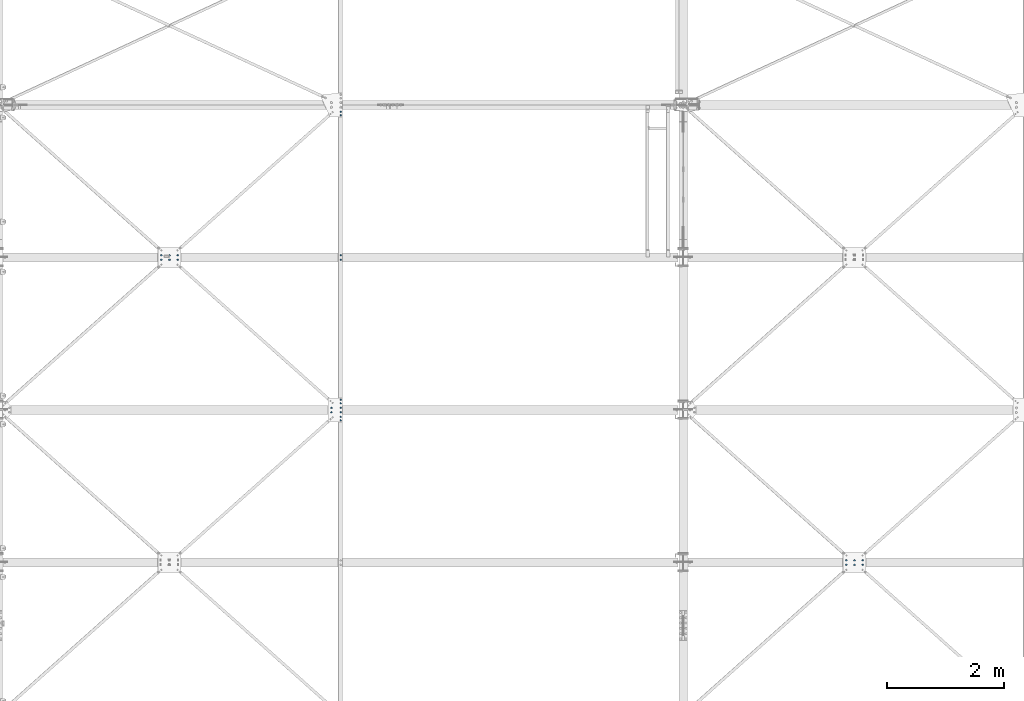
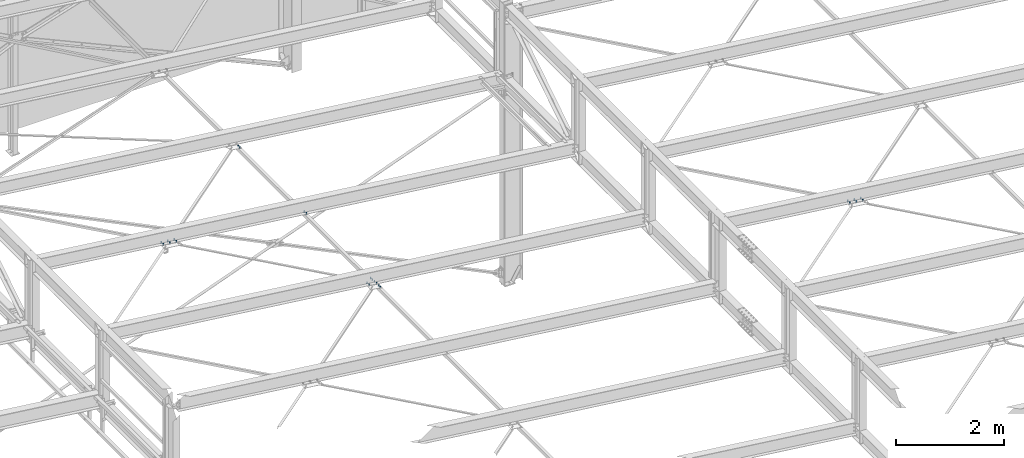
# One storey, part 291 of 3134: 7 mechanical fasteners, 6 elements without a shape of their own.
"""IFC2X3 building model written with IfcOpenShell, lengths in millimetres."""

from ifc_helpers import new_model, si_unit, frame, origin_with_axes, place, context, subcontext, project, spatial, faceted_brep, source, transform, mapped, material, type_object, element, aggregate, save


model = new_model("IFC2X3")

# Units and contexts
model_context = context("Model", 3, precision=1e-05, world=origin_with_axes())
body_context = subcontext(model_context, "Body", "Model", "MODEL_VIEW")
ifc_project = project(units=[si_unit("LENGTHUNIT", "METRE", prefix="MILLI"), si_unit("AREAUNIT", "SQUARE_METRE"), si_unit("VOLUMEUNIT", "CUBIC_METRE"), si_unit("MASSUNIT", "GRAM", prefix="KILO"), si_unit("TIMEUNIT", "SECOND"), si_unit("PLANEANGLEUNIT", "RADIAN"), si_unit("SOLIDANGLEUNIT", "STERADIAN"), si_unit("THERMODYNAMICTEMPERATUREUNIT", "DEGREE_CELSIUS"), si_unit("LUMINOUSINTENSITYUNIT", "LUMEN")], contexts=[model_context])

# Site, building, storey
site_placement = place(None, origin_with_axes())
site = spatial("IfcSite", under=ifc_project, at=site_placement, CompositionType="ELEMENT")
building_placement = place(site_placement, origin_with_axes())
building = spatial("IfcBuilding", under=site, at=building_placement, Name="Undefined", CompositionType="ELEMENT")
storey_placement = place(building_placement, origin_with_axes())
storey = spatial("IfcBuildingStorey", under=building, at=storey_placement, Name="Undefined", CompositionType="ELEMENT", Elevation=0.0)

# Assembly, mechanical fastener
assembly_1_placement = place(storey_placement, origin_with_axes())
assembly_1 = element("IfcElementAssembly", 1, at=assembly_1_placement, inside=storey, Name="300", AssemblyPlace="NOTDEFINED", PredefinedType="RIGID_FRAME")
ifc_material = material(Name="8.8")
mechanical_fastener_type = type_object("IfcMechanicalFastenerType", Name="Bolt assembly")
shared_shape_1 = source(origin_with_axes(), body_context, "Body", "Brep", [
    faceted_brep([(13.856406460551, -19.199990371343, 0.0), (6.92820323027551, -19.199990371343, 12.0), (-6.92820323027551, -19.199990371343, 12.0), (-13.856406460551, -19.199990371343, 1.69692038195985e-15), (-6.92820323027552, -19.199990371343, -12.0), (6.9282032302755, -19.199990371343, -12.0), (6.9282032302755, -9.19999037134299, -12.0), (-6.92820323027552, -9.19999037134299, -12.0), (-13.856406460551, -9.19999037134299, 1.69692038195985e-15), (-6.92820323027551, -9.19999037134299, 12.0), (6.92820323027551, -9.19999037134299, 12.0), (13.856406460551, -9.19999037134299, 0.0), (8.0, -9.19999037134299, 0.0), (6.92820323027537, -9.19999037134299, 4.00000000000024), (3.99999999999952, -9.19999037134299, 6.92820323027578), (-8.29068785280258e-13, -9.19999037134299, 8.0), (-4.00000000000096, -9.19999037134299, 6.92820323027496), (-6.9282032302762, -9.19999037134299, 3.99999999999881), (-8.0, -9.19999037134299, -1.65813757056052e-12), (-6.92820323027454, -9.19999037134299, -4.00000000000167), (-3.99999999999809, -9.19999037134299, -6.92820323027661), (2.47832457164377e-12, -9.19999037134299, -8.0), (4.00000000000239, -9.19999037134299, -6.92820323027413), (6.92820323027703, -9.19999037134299, -3.99999999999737), (6.92820323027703, 25.800009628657, -3.99999999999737), (4.00000000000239, 25.800009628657, -6.92820323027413), (2.47832457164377e-12, 25.800009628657, -8.0), (-3.99999999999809, 25.800009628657, -6.92820323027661), (-6.92820323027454, 25.800009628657, -4.00000000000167), (-8.0, 25.800009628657, -1.65813757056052e-12), (-6.9282032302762, 25.800009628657, 3.99999999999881), (-4.00000000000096, 25.800009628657, 6.92820323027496), (-8.29068785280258e-13, 25.800009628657, 8.0), (3.99999999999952, 25.800009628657, 6.92820323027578), (6.92820323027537, 25.800009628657, 4.00000000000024), (8.0, 25.800009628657, 0.0), (13.856406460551, 8.00000637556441, 0.0), (6.92820323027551, 8.00000637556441, 12.0), (-6.92820323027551, 8.00000637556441, 12.0), (-13.856406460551, 8.00000637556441, 1.69692038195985e-15), (-6.92820323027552, 8.00000637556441, -12.0), (6.9282032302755, 8.00000637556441, -12.0), (6.9282032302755, 21.0000063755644, -12.0), (-6.92820323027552, 21.0000063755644, -12.0), (-13.856406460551, 21.0000063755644, 1.69692038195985e-15), (-6.92820323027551, 21.0000063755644, 12.0), (6.92820323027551, 21.0000063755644, 12.0), (13.856406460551, 21.0000063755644, 0.0)], [[[0, 1, 2, 3, 4, 5]], [[6, 7, 8, 9, 10, 11]], [[0, 11, 10, 1]], [[1, 10, 9, 2]], [[2, 9, 8, 3]], [[3, 8, 7, 4]], [[4, 7, 6, 5]], [[5, 6, 11, 0]], [[12, 13, 14, 15, 16, 17, 18, 19, 20, 21, 22, 23]], [[24, 25, 26, 27, 28, 29, 30, 31, 32, 33, 34, 35]], [[12, 35, 34, 13]], [[13, 34, 33, 14]], [[14, 33, 32, 15]], [[15, 32, 31, 16]], [[16, 31, 30, 17]], [[17, 30, 29, 18]], [[18, 29, 28, 19]], [[19, 28, 27, 20]], [[20, 27, 26, 21]], [[21, 26, 25, 22]], [[22, 25, 24, 23]], [[23, 24, 35, 12]], [[36, 37, 38, 39, 40, 41]], [[42, 43, 44, 45, 46, 47]], [[36, 47, 46, 37]], [[37, 46, 45, 38]], [[38, 45, 44, 39]], [[39, 44, 43, 40]], [[40, 43, 42, 41]], [[41, 42, 47, 36]]]),
    faceted_brep([(9.0, -0.1, 0.0), (7.79422863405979, -0.1, 4.50000000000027), (4.49999999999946, -0.1, 7.79422863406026), (-9.3270238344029e-13, -0.1, 9.0), (-4.50000000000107, -0.1, 7.79422863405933), (-7.79422863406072, -0.1, 4.49999999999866), (-9.0, -0.1, -1.86540476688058e-12), (-7.79422863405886, -0.1, -4.50000000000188), (-4.49999999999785, -0.1, -7.79422863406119), (2.78811514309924e-12, -0.1, -9.0), (4.50000000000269, -0.1, -7.7942286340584), (7.79422863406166, -0.1, -4.49999999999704), (7.79422863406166, 8.00000000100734, -4.49999999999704), (4.50000000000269, 8.00000000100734, -7.7942286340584), (2.78811514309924e-12, 8.00000000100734, -9.0), (-4.49999999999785, 8.00000000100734, -7.79422863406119), (-7.79422863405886, 8.00000000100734, -4.50000000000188), (-9.0, 8.00000000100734, -1.86540476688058e-12), (-7.79422863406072, 8.00000000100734, 4.49999999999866), (-4.50000000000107, 8.00000000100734, 7.79422863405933), (-9.3270238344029e-13, 8.00000000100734, 9.0), (4.49999999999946, 8.00000000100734, 7.79422863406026), (7.79422863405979, 8.00000000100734, 4.50000000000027), (9.0, 8.00000000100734, 0.0), (9.0, -9.09999037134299, 0.0), (7.79422863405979, -9.09999037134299, 4.50000000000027), (4.49999999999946, -9.09999037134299, 7.79422863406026), (-9.3270238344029e-13, -9.09999037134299, 9.0), (-4.50000000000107, -9.09999037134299, 7.79422863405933), (-7.79422863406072, -9.09999037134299, 4.49999999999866), (-9.0, -9.09999037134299, -1.86540476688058e-12), (-7.79422863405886, -9.09999037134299, -4.50000000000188), (-4.49999999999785, -9.09999037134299, -7.79422863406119), (2.78811514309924e-12, -9.09999037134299, -9.0), (4.50000000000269, -9.09999037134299, -7.7942286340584), (7.79422863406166, -9.09999037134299, -4.49999999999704), (7.79422863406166, 0.100000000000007, -4.49999999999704), (4.50000000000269, 0.100000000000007, -7.7942286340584), (2.78811514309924e-12, 0.100000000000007, -9.0), (-4.49999999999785, 0.100000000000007, -7.79422863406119), (-7.79422863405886, 0.100000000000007, -4.50000000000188), (-9.0, 0.100000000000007, -1.86540476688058e-12), (-7.79422863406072, 0.100000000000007, 4.49999999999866), (-4.50000000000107, 0.100000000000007, 7.79422863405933), (-9.3270238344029e-13, 0.100000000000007, 9.0), (4.49999999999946, 0.100000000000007, 7.79422863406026), (7.79422863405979, 0.100000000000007, 4.50000000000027), (9.0, 0.100000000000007, 0.0)], [[[0, 1, 2, 3, 4, 5, 6, 7, 8, 9, 10, 11]], [[12, 13, 14, 15, 16, 17, 18, 19, 20, 21, 22, 23]], [[0, 23, 22, 1]], [[1, 22, 21, 2]], [[2, 21, 20, 3]], [[3, 20, 19, 4]], [[4, 19, 18, 5]], [[5, 18, 17, 6]], [[6, 17, 16, 7]], [[7, 16, 15, 8]], [[8, 15, 14, 9]], [[9, 14, 13, 10]], [[10, 13, 12, 11]], [[11, 12, 23, 0]], [[24, 25, 26, 27, 28, 29, 30, 31, 32, 33, 34, 35]], [[36, 37, 38, 39, 40, 41, 42, 43, 44, 45, 46, 47]], [[24, 47, 46, 25]], [[25, 46, 45, 26]], [[26, 45, 44, 27]], [[27, 44, 43, 28]], [[28, 43, 42, 29]], [[29, 42, 41, 30]], [[30, 41, 40, 31]], [[31, 40, 39, 32]], [[32, 39, 38, 33]], [[33, 38, 37, 34]], [[34, 37, 36, 35]], [[35, 36, 47, 24]]]),
])
mechanical_fastener_1_placement = place(assembly_1_placement, frame((49958.5751064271, 55812.0, 4816.43281405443), z_axis=(-0.992623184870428, 0.0, 0.121240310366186), x_axis=(0.0, 1.0, 0.0)))
mechanical_fastener_1 = element("IfcMechanicalFastener", 2, at=mechanical_fastener_1_placement, type_object=mechanical_fastener_type, material=ifc_material, Name="Bolt assembly", NominalDiameter=16.0, NominalLength=35.0, context=body_context, shape_type="MappedRepresentation", body=[
    mapped(shared_shape_1, transform((0.0, -5.32963895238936e-10, -79.9999999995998))),
    mapped(shared_shape_1, transform((76.0, -5.32963895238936e-10, -79.9999999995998))),
    mapped(shared_shape_1, transform((0.0, 5.3114490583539e-10, 79.9999999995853))),
    mapped(shared_shape_1, transform((76.0, 5.3114490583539e-10, 79.9999999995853))),
])
aggregate(assembly_1, [mechanical_fastener_1])

assembly_2_placement = place(storey_placement, origin_with_axes())
assembly_2 = element("IfcElementAssembly", 3, at=assembly_2_placement, inside=storey, AssemblyPlace="NOTDEFINED", PredefinedType="RIGID_FRAME")
shared_shape_2 = source(origin_with_axes(), body_context, "Body", "Brep", [
    faceted_brep([(13.856406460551, -19.199990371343, 0.0), (6.92820323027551, -19.199990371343, 12.0), (-6.92820323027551, -19.199990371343, 12.0), (-13.856406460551, -19.199990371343, 1.69692038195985e-15), (-6.92820323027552, -19.199990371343, -12.0), (6.9282032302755, -19.199990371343, -12.0), (6.9282032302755, -9.19999037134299, -12.0), (-6.92820323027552, -9.19999037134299, -12.0), (-13.856406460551, -9.19999037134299, 1.69692038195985e-15), (-6.92820323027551, -9.19999037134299, 12.0), (6.92820323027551, -9.19999037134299, 12.0), (13.856406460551, -9.19999037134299, 0.0), (8.0, -9.19999037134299, 0.0), (6.92820323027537, -9.19999037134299, 4.00000000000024), (3.99999999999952, -9.19999037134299, 6.92820323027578), (-8.29068785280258e-13, -9.19999037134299, 8.0), (-4.00000000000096, -9.19999037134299, 6.92820323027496), (-6.9282032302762, -9.19999037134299, 3.99999999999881), (-8.0, -9.19999037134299, -1.65813757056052e-12), (-6.92820323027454, -9.19999037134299, -4.00000000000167), (-3.99999999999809, -9.19999037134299, -6.92820323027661), (2.47832457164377e-12, -9.19999037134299, -8.0), (4.00000000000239, -9.19999037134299, -6.92820323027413), (6.92820323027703, -9.19999037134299, -3.99999999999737), (6.92820323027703, 35.8000002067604, -3.99999999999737), (4.00000000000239, 35.8000002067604, -6.92820323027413), (2.47832457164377e-12, 35.8000002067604, -8.0), (-3.99999999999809, 35.8000002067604, -6.92820323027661), (-6.92820323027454, 35.8000002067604, -4.00000000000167), (-8.0, 35.8000002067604, -1.65813757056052e-12), (-6.9282032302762, 35.8000002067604, 3.99999999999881), (-4.00000000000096, 35.8000002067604, 6.92820323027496), (-8.29068785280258e-13, 35.8000002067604, 8.0), (3.99999999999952, 35.8000002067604, 6.92820323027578), (6.92820323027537, 35.8000002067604, 4.00000000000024), (8.0, 35.8000002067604, 0.0), (13.856406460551, 14.9999995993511, 0.0), (6.92820323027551, 14.9999995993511, 12.0), (-6.92820323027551, 14.9999995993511, 12.0), (-13.856406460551, 14.9999995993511, 1.69692038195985e-15), (-6.92820323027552, 14.9999995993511, -12.0), (6.9282032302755, 14.9999995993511, -12.0), (6.9282032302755, 27.9999995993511, -12.0), (-6.92820323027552, 27.9999995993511, -12.0), (-13.856406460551, 27.9999995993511, 1.69692038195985e-15), (-6.92820323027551, 27.9999995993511, 12.0), (6.92820323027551, 27.9999995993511, 12.0), (13.856406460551, 27.9999995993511, 0.0)], [[[0, 1, 2, 3, 4, 5]], [[6, 7, 8, 9, 10, 11]], [[0, 11, 10, 1]], [[1, 10, 9, 2]], [[2, 9, 8, 3]], [[3, 8, 7, 4]], [[4, 7, 6, 5]], [[5, 6, 11, 0]], [[12, 13, 14, 15, 16, 17, 18, 19, 20, 21, 22, 23]], [[24, 25, 26, 27, 28, 29, 30, 31, 32, 33, 34, 35]], [[12, 35, 34, 13]], [[13, 34, 33, 14]], [[14, 33, 32, 15]], [[15, 32, 31, 16]], [[16, 31, 30, 17]], [[17, 30, 29, 18]], [[18, 29, 28, 19]], [[19, 28, 27, 20]], [[20, 27, 26, 21]], [[21, 26, 25, 22]], [[22, 25, 24, 23]], [[23, 24, 35, 12]], [[36, 37, 38, 39, 40, 41]], [[42, 43, 44, 45, 46, 47]], [[36, 47, 46, 37]], [[37, 46, 45, 38]], [[38, 45, 44, 39]], [[39, 44, 43, 40]], [[40, 43, 42, 41]], [[41, 42, 47, 36]]]),
    faceted_brep([(9.0, -9.09999037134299, 0.0), (7.79422863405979, -9.09999037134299, 4.50000000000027), (4.49999999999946, -9.09999037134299, 7.79422863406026), (-9.3270238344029e-13, -9.09999037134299, 9.0), (-4.50000000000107, -9.09999037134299, 7.79422863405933), (-7.79422863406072, -9.09999037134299, 4.49999999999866), (-9.0, -9.09999037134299, -1.86540476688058e-12), (-7.79422863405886, -9.09999037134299, -4.50000000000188), (-4.49999999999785, -9.09999037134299, -7.79422863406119), (2.78811514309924e-12, -9.09999037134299, -9.0), (4.50000000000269, -9.09999037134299, -7.7942286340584), (7.79422863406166, -9.09999037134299, -4.49999999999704), (7.79422863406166, 0.100000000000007, -4.49999999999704), (4.50000000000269, 0.100000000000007, -7.7942286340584), (2.78811514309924e-12, 0.100000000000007, -9.0), (-4.49999999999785, 0.100000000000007, -7.79422863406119), (-7.79422863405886, 0.100000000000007, -4.50000000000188), (-9.0, 0.100000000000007, -1.86540476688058e-12), (-7.79422863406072, 0.100000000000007, 4.49999999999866), (-4.50000000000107, 0.100000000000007, 7.79422863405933), (-9.3270238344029e-13, 0.100000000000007, 9.0), (4.49999999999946, 0.100000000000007, 7.79422863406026), (7.79422863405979, 0.100000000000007, 4.50000000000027), (9.0, 0.100000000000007, 0.0), (9.0, 7.9, 0.0), (7.79422863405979, 7.9, 4.50000000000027), (4.49999999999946, 7.9, 7.79422863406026), (-9.3270238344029e-13, 7.9, 9.0), (-4.50000000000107, 7.9, 7.79422863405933), (-7.79422863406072, 7.9, 4.49999999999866), (-9.0, 7.9, -1.86540476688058e-12), (-7.79422863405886, 7.9, -4.50000000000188), (-4.49999999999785, 7.9, -7.79422863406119), (2.78811514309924e-12, 7.9, -9.0), (4.50000000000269, 7.9, -7.7942286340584), (7.79422863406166, 7.9, -4.49999999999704), (7.79422863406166, 14.9999995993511, -4.49999999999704), (4.50000000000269, 14.9999995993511, -7.7942286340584), (2.78811514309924e-12, 14.9999995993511, -9.0), (-4.49999999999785, 14.9999995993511, -7.79422863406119), (-7.79422863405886, 14.9999995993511, -4.50000000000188), (-9.0, 14.9999995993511, -1.86540476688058e-12), (-7.79422863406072, 14.9999995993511, 4.49999999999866), (-4.50000000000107, 14.9999995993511, 7.79422863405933), (-9.3270238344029e-13, 14.9999995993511, 9.0), (4.49999999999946, 14.9999995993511, 7.79422863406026), (7.79422863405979, 14.9999995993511, 4.50000000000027), (9.0, 14.9999995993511, 0.0)], [[[0, 1, 2, 3, 4, 5, 6, 7, 8, 9, 10, 11]], [[12, 13, 14, 15, 16, 17, 18, 19, 20, 21, 22, 23]], [[0, 23, 22, 1]], [[1, 22, 21, 2]], [[2, 21, 20, 3]], [[3, 20, 19, 4]], [[4, 19, 18, 5]], [[5, 18, 17, 6]], [[6, 17, 16, 7]], [[7, 16, 15, 8]], [[8, 15, 14, 9]], [[9, 14, 13, 10]], [[10, 13, 12, 11]], [[11, 12, 23, 0]], [[24, 25, 26, 27, 28, 29, 30, 31, 32, 33, 34, 35]], [[36, 37, 38, 39, 40, 41, 42, 43, 44, 45, 46, 47]], [[24, 47, 46, 25]], [[25, 46, 45, 26]], [[26, 45, 44, 27]], [[27, 44, 43, 28]], [[28, 43, 42, 29]], [[29, 42, 41, 30]], [[30, 41, 40, 31]], [[31, 40, 39, 32]], [[32, 39, 38, 33]], [[33, 38, 37, 34]], [[34, 37, 36, 35]], [[35, 36, 47, 24]]]),
])
mechanical_fastener_2_placement = place(assembly_2_placement, frame((50037.9849612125, 58412.0, 4806.73358922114), z_axis=(-0.992623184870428, 0.0, 0.121240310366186), x_axis=(0.0, 1.0, 0.0)))
mechanical_fastener_2 = element("IfcMechanicalFastener", 4, at=mechanical_fastener_2_placement, type_object=mechanical_fastener_type, material=ifc_material, Name="Bolt assembly", NominalDiameter=16.0, NominalLength=45.0, context=body_context, shape_type="MappedRepresentation", body=[
    mapped(shared_shape_2, transform((0.0, 0.0, 0.0))),
    mapped(shared_shape_2, transform((76.0, 0.0, 0.0))),
])
aggregate(assembly_2, [mechanical_fastener_2])

# Assembly, mechanical fasteners
assembly_3_placement = place(storey_placement, origin_with_axes())
assembly_3 = element("IfcElementAssembly", 5, at=assembly_3_placement, inside=storey, Name="PL8", AssemblyPlace="NOTDEFINED", PredefinedType="RIGID_FRAME")
shared_shape_3 = source(origin_with_axes(), body_context, "Body", "Brep", [
    faceted_brep([(13.856406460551, -10.0, 0.0), (6.92820323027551, -10.0, 12.0), (-6.92820323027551, -10.0, 12.0), (-13.856406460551, -10.0, 1.69692038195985e-15), (-6.92820323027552, -10.0, -12.0), (6.9282032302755, -10.0, -12.0), (6.9282032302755, 0.0, -12.0), (-6.92820323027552, 0.0, -12.0), (-13.856406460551, 0.0, 1.69692038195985e-15), (-6.92820323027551, 0.0, 12.0), (6.92820323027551, 0.0, 12.0), (13.856406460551, 0.0, 0.0), (8.0, 0.0, 0.0), (6.92820323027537, 0.0, 4.00000000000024), (3.99999999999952, 0.0, 6.92820323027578), (-8.29068785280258e-13, 0.0, 8.0), (-4.00000000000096, 0.0, 6.92820323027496), (-6.9282032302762, 0.0, 3.99999999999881), (-8.0, 0.0, -1.65813757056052e-12), (-6.92820323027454, 0.0, -4.00000000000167), (-3.99999999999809, 0.0, -6.92820323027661), (2.47832457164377e-12, 0.0, -8.0), (4.00000000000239, 0.0, -6.92820323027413), (6.92820323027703, 0.0, -3.99999999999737), (6.92820323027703, 35.0000000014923, -3.99999999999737), (4.00000000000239, 35.0000000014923, -6.92820323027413), (2.47832457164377e-12, 35.0000000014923, -8.0), (-3.99999999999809, 35.0000000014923, -6.92820323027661), (-6.92820323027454, 35.0000000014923, -4.00000000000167), (-8.0, 35.0000000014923, -1.65813757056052e-12), (-6.9282032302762, 35.0000000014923, 3.99999999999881), (-4.00000000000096, 35.0000000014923, 6.92820323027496), (-8.29068785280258e-13, 35.0000000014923, 8.0), (3.99999999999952, 35.0000000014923, 6.92820323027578), (6.92820323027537, 35.0000000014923, 4.00000000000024), (8.0, 35.0000000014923, 0.0), (13.856406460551, 14.9999995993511, 0.0), (6.92820323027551, 14.9999995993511, 12.0), (-6.92820323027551, 14.9999995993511, 12.0), (-13.856406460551, 14.9999995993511, 1.69692038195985e-15), (-6.92820323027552, 14.9999995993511, -12.0), (6.9282032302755, 14.9999995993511, -12.0), (6.9282032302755, 27.9999995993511, -12.0), (-6.92820323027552, 27.9999995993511, -12.0), (-13.856406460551, 27.9999995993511, 1.69692038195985e-15), (-6.92820323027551, 27.9999995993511, 12.0), (6.92820323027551, 27.9999995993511, 12.0), (13.856406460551, 27.9999995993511, 0.0)], [[[0, 1, 2, 3, 4, 5]], [[6, 7, 8, 9, 10, 11]], [[0, 11, 10, 1]], [[1, 10, 9, 2]], [[2, 9, 8, 3]], [[3, 8, 7, 4]], [[4, 7, 6, 5]], [[5, 6, 11, 0]], [[12, 13, 14, 15, 16, 17, 18, 19, 20, 21, 22, 23]], [[24, 25, 26, 27, 28, 29, 30, 31, 32, 33, 34, 35]], [[12, 35, 34, 13]], [[13, 34, 33, 14]], [[14, 33, 32, 15]], [[15, 32, 31, 16]], [[16, 31, 30, 17]], [[17, 30, 29, 18]], [[18, 29, 28, 19]], [[19, 28, 27, 20]], [[20, 27, 26, 21]], [[21, 26, 25, 22]], [[22, 25, 24, 23]], [[23, 24, 35, 12]], [[36, 37, 38, 39, 40, 41]], [[42, 43, 44, 45, 46, 47]], [[36, 47, 46, 37]], [[37, 46, 45, 38]], [[38, 45, 44, 39]], [[39, 44, 43, 40]], [[40, 43, 42, 41]], [[41, 42, 47, 36]]]),
    faceted_brep([(9.0, 7.9, 0.0), (7.79422863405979, 7.9, 4.50000000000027), (4.49999999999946, 7.9, 7.79422863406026), (-9.3270238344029e-13, 7.9, 9.0), (-4.50000000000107, 7.9, 7.79422863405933), (-7.79422863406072, 7.9, 4.49999999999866), (-9.0, 7.9, -1.86540476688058e-12), (-7.79422863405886, 7.9, -4.50000000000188), (-4.49999999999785, 7.9, -7.79422863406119), (2.78811514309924e-12, 7.9, -9.0), (4.50000000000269, 7.9, -7.7942286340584), (7.79422863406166, 7.9, -4.49999999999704), (7.79422863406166, 14.9999995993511, -4.49999999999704), (4.50000000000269, 14.9999995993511, -7.7942286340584), (2.78811514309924e-12, 14.9999995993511, -9.0), (-4.49999999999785, 14.9999995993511, -7.79422863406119), (-7.79422863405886, 14.9999995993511, -4.50000000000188), (-9.0, 14.9999995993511, -1.86540476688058e-12), (-7.79422863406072, 14.9999995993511, 4.49999999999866), (-4.50000000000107, 14.9999995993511, 7.79422863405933), (-9.3270238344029e-13, 14.9999995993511, 9.0), (4.49999999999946, 14.9999995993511, 7.79422863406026), (7.79422863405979, 14.9999995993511, 4.50000000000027), (9.0, 14.9999995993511, 0.0), (9.0, 0.100000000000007, 0.0), (7.79422863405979, 0.100000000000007, 4.50000000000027), (4.49999999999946, 0.100000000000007, 7.79422863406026), (-9.3270238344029e-13, 0.100000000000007, 9.0), (-4.50000000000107, 0.100000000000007, 7.79422863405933), (-7.79422863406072, 0.100000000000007, 4.49999999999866), (-9.0, 0.100000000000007, -1.86540476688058e-12), (-7.79422863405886, 0.100000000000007, -4.50000000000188), (-4.49999999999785, 0.100000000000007, -7.79422863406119), (2.78811514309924e-12, 0.100000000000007, -9.0), (4.50000000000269, 0.100000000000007, -7.7942286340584), (7.79422863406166, 0.100000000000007, -4.49999999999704), (7.79422863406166, 8.1, -4.49999999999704), (4.50000000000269, 8.1, -7.7942286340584), (2.78811514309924e-12, 8.1, -9.0), (-4.49999999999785, 8.1, -7.79422863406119), (-7.79422863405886, 8.1, -4.50000000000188), (-9.0, 8.1, -1.86540476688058e-12), (-7.79422863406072, 8.1, 4.49999999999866), (-4.50000000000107, 8.1, 7.79422863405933), (-9.3270238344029e-13, 8.1, 9.0), (4.49999999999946, 8.1, 7.79422863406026), (7.79422863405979, 8.1, 4.50000000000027), (9.0, 8.1, 0.0)], [[[0, 1, 2, 3, 4, 5, 6, 7, 8, 9, 10, 11]], [[12, 13, 14, 15, 16, 17, 18, 19, 20, 21, 22, 23]], [[0, 23, 22, 1]], [[1, 22, 21, 2]], [[2, 21, 20, 3]], [[3, 20, 19, 4]], [[4, 19, 18, 5]], [[5, 18, 17, 6]], [[6, 17, 16, 7]], [[7, 16, 15, 8]], [[8, 15, 14, 9]], [[9, 14, 13, 10]], [[10, 13, 12, 11]], [[11, 12, 23, 0]], [[24, 25, 26, 27, 28, 29, 30, 31, 32, 33, 34, 35]], [[36, 37, 38, 39, 40, 41, 42, 43, 44, 45, 46, 47]], [[24, 47, 46, 25]], [[25, 46, 45, 26]], [[26, 45, 44, 27]], [[27, 44, 43, 28]], [[28, 43, 42, 29]], [[29, 42, 41, 30]], [[30, 41, 40, 31]], [[31, 40, 39, 32]], [[32, 39, 38, 33]], [[33, 38, 37, 34]], [[34, 37, 36, 35]], [[35, 36, 47, 24]]]),
])
mechanical_fastener_3_placement = place(assembly_3_placement, frame((50037.9849612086, 56025.0, 4806.73358922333), z_axis=(0.992623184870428, 0.0, -0.121240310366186), x_axis=(0.0, -1.0, 0.0)))
mechanical_fastener_3 = element("IfcMechanicalFastener", 6, at=mechanical_fastener_3_placement, type_object=mechanical_fastener_type, material=ifc_material, Name="Bolt assembly", NominalDiameter=16.0, NominalLength=35.0, context=body_context, shape_type="MappedRepresentation", body=[
    mapped(shared_shape_3, transform((0.0, 0.0, 0.0))),
    mapped(shared_shape_3, transform((59.9999999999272, 0.0, 5.40239852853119e-10))),
])
mechanical_fastener_4_placement = place(assembly_3_placement, frame((50037.9849612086, 55735.0, 4806.73358922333), z_axis=(0.992623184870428, 0.0, -0.121240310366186), x_axis=(0.0, -1.0, 0.0)))
mechanical_fastener_4 = element("IfcMechanicalFastener", 7, at=mechanical_fastener_4_placement, type_object=mechanical_fastener_type, material=ifc_material, Name="Bolt assembly", NominalDiameter=16.0, NominalLength=35.0, context=body_context, shape_type="MappedRepresentation", body=[
    mapped(shared_shape_3, transform((0.0, 0.0, 0.0))),
    mapped(shared_shape_3, transform((59.9999999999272, 0.0, 5.40239852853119e-10))),
])
aggregate(assembly_3, [mechanical_fastener_3, mechanical_fastener_4])

# Assembly, mechanical fastener
assembly_4_placement = place(storey_placement, origin_with_axes())
assembly_4 = element("IfcElementAssembly", 8, at=assembly_4_placement, inside=storey, Name="PL8", AssemblyPlace="NOTDEFINED", PredefinedType="RIGID_FRAME")
mechanical_fastener_5_placement = place(assembly_4_placement, frame((50037.9849612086, 60935.0, 4806.73358922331), z_axis=(0.992623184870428, 0.0, -0.121240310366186), x_axis=(0.0, -1.0, 0.0)))
mechanical_fastener_5 = element("IfcMechanicalFastener", 9, at=mechanical_fastener_5_placement, type_object=mechanical_fastener_type, material=ifc_material, Name="Bolt assembly", NominalDiameter=16.0, NominalLength=35.0, context=body_context, shape_type="MappedRepresentation", body=[
    mapped(shared_shape_3, transform((0.0, 0.0, 0.0))),
    mapped(shared_shape_3, transform((59.9999999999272, 0.0, 5.40239852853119e-10))),
])
aggregate(assembly_4, [mechanical_fastener_5])

assembly_5_placement = place(storey_placement, origin_with_axes())
assembly_5 = element("IfcElementAssembly", 10, at=assembly_5_placement, inside=storey, Name="300", AssemblyPlace="NOTDEFINED", PredefinedType="RIGID_FRAME")
shared_shape_4 = source(origin_with_axes(), body_context, "Body", "Brep", [
    faceted_brep([(10.9696551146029, -17.1999998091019, 0.0), (5.48482755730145, -17.1999998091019, 9.5), (-5.48482755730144, -17.1999998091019, 9.5), (-10.9696551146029, -17.1999998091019, 1.34339530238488e-15), (-5.48482755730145, -17.1999998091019, -9.5), (5.48482755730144, -17.1999998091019, -9.50000000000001), (5.48482755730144, -9.19999978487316, -9.50000000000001), (-5.48482755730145, -9.19999978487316, -9.5), (-10.9696551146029, -9.19999978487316, 1.34339530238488e-15), (-5.48482755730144, -9.19999978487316, 9.5), (5.48482755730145, -9.19999978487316, 9.5), (10.9696551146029, -9.19999978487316, 0.0), (6.0, -9.19999978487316, 0.0), (5.19615242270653, -9.19999978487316, 3.00000000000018), (2.99999999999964, -9.19999978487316, 5.19615242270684), (-6.21801588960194e-13, -9.19999978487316, 6.0), (-3.00000000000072, -9.19999978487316, 5.19615242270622), (-5.19615242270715, -9.19999978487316, 2.9999999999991), (-6.0, -9.19999978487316, -1.24360317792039e-12), (-5.19615242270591, -9.19999978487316, -3.00000000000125), (-2.99999999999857, -9.19999978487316, -5.19615242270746), (1.85874342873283e-12, -9.19999978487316, -6.0), (3.00000000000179, -9.19999978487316, -5.1961524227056), (5.19615242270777, -9.19999978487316, -2.99999999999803), (5.19615242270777, 25.8000002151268, -2.99999999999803), (3.00000000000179, 25.8000002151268, -5.1961524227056), (1.85874342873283e-12, 25.8000002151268, -6.0), (-2.99999999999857, 25.8000002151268, -5.19615242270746), (-5.19615242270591, 25.8000002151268, -3.00000000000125), (-6.0, 25.8000002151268, -1.24360317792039e-12), (-5.19615242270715, 25.8000002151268, 2.9999999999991), (-3.00000000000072, 25.8000002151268, 5.19615242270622), (-6.21801588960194e-13, 25.8000002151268, 6.0), (2.99999999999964, 25.8000002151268, 5.19615242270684), (5.19615242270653, 25.8000002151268, 3.00000000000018), (6.0, 25.8000002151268, 0.0), (10.9696551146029, 8.0, 0.0), (5.48482755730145, 8.0, 9.5), (-5.48482755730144, 8.0, 9.5), (-10.9696551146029, 8.0, 1.34339530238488e-15), (-5.48482755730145, 8.0, -9.5), (5.48482755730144, 8.0, -9.50000000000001), (5.48482755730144, 18.0, -9.50000000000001), (-5.48482755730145, 18.0, -9.5), (-10.9696551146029, 18.0, 1.34339530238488e-15), (-5.48482755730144, 18.0, 9.5), (5.48482755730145, 18.0, 9.5), (10.9696551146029, 18.0, 0.0)], [[[0, 1, 2, 3, 4, 5]], [[6, 7, 8, 9, 10, 11]], [[0, 11, 10, 1]], [[1, 10, 9, 2]], [[2, 9, 8, 3]], [[3, 8, 7, 4]], [[4, 7, 6, 5]], [[5, 6, 11, 0]], [[12, 13, 14, 15, 16, 17, 18, 19, 20, 21, 22, 23]], [[24, 25, 26, 27, 28, 29, 30, 31, 32, 33, 34, 35]], [[12, 35, 34, 13]], [[13, 34, 33, 14]], [[14, 33, 32, 15]], [[15, 32, 31, 16]], [[16, 31, 30, 17]], [[17, 30, 29, 18]], [[18, 29, 28, 19]], [[19, 28, 27, 20]], [[20, 27, 26, 21]], [[21, 26, 25, 22]], [[22, 25, 24, 23]], [[23, 24, 35, 12]], [[36, 37, 38, 39, 40, 41]], [[42, 43, 44, 45, 46, 47]], [[36, 47, 46, 37]], [[37, 46, 45, 38]], [[38, 45, 44, 39]], [[39, 44, 43, 40]], [[40, 43, 42, 41]], [[41, 42, 47, 36]]]),
    faceted_brep([(7.0, -0.1, 0.0), (6.06217782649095, -0.1, 3.50000000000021), (3.49999999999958, -0.1, 6.06217782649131), (-7.25435187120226e-13, -0.1, 7.0), (-3.50000000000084, -0.1, 6.06217782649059), (-6.06217782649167, -0.1, 3.49999999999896), (-7.0, -0.1, -1.45087037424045e-12), (-6.06217782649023, -0.1, -3.50000000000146), (-3.49999999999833, -0.1, -6.06217782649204), (2.1685340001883e-12, -0.1, -7.0), (3.50000000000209, -0.1, -6.06217782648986), (6.0621778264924, -0.1, -3.4999999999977), (6.0621778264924, 8.0000000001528, -3.4999999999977), (3.50000000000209, 8.0000000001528, -6.06217782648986), (2.1685340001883e-12, 8.0000000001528, -7.0), (-3.49999999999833, 8.0000000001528, -6.06217782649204), (-6.06217782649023, 8.0000000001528, -3.50000000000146), (-7.0, 8.0000000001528, -1.45087037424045e-12), (-6.06217782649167, 8.0000000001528, 3.49999999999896), (-3.50000000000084, 8.0000000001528, 6.06217782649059), (-7.25435187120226e-13, 8.0000000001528, 7.0), (3.49999999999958, 8.0000000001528, 6.06217782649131), (6.06217782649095, 8.0000000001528, 3.50000000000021), (7.0, 8.0000000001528, 0.0), (7.0, -9.09999980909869, 0.0), (6.06217782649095, -9.09999980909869, 3.50000000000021), (3.49999999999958, -9.09999980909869, 6.06217782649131), (-7.25435187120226e-13, -9.09999980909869, 7.0), (-3.50000000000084, -9.09999980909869, 6.06217782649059), (-6.06217782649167, -9.09999980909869, 3.49999999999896), (-7.0, -9.09999980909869, -1.45087037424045e-12), (-6.06217782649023, -9.09999980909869, -3.50000000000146), (-3.49999999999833, -9.09999980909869, -6.06217782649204), (2.1685340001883e-12, -9.09999980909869, -7.0), (3.50000000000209, -9.09999980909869, -6.06217782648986), (6.0621778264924, -9.09999980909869, -3.4999999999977), (6.0621778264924, 0.0999999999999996, -3.4999999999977), (3.50000000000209, 0.0999999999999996, -6.06217782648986), (2.1685340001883e-12, 0.0999999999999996, -7.0), (-3.49999999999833, 0.0999999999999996, -6.06217782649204), (-6.06217782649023, 0.0999999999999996, -3.50000000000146), (-7.0, 0.0999999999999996, -1.45087037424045e-12), (-6.06217782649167, 0.0999999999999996, 3.49999999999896), (-3.50000000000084, 0.0999999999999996, 6.06217782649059), (-7.25435187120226e-13, 0.0999999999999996, 7.0), (3.49999999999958, 0.0999999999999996, 6.06217782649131), (6.06217782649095, 0.0999999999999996, 3.50000000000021), (7.0, 0.0999999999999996, 0.0)], [[[0, 1, 2, 3, 4, 5, 6, 7, 8, 9, 10, 11]], [[12, 13, 14, 15, 16, 17, 18, 19, 20, 21, 22, 23]], [[0, 23, 22, 1]], [[1, 22, 21, 2]], [[2, 21, 20, 3]], [[3, 20, 19, 4]], [[4, 19, 18, 5]], [[5, 18, 17, 6]], [[6, 17, 16, 7]], [[7, 16, 15, 8]], [[8, 15, 14, 9]], [[9, 14, 13, 10]], [[10, 13, 12, 11]], [[11, 12, 23, 0]], [[24, 25, 26, 27, 28, 29, 30, 31, 32, 33, 34, 35]], [[36, 37, 38, 39, 40, 41, 42, 43, 44, 45, 46, 47]], [[24, 47, 46, 25]], [[25, 46, 45, 26]], [[26, 45, 44, 27]], [[27, 44, 43, 28]], [[28, 43, 42, 29]], [[29, 42, 41, 30]], [[30, 41, 40, 31]], [[31, 40, 39, 32]], [[32, 39, 38, 33]], [[33, 38, 37, 34]], [[34, 37, 36, 35]], [[35, 36, 47, 24]]]),
])
mechanical_fastener_6_placement = place(assembly_5_placement, frame((47258.2022067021, 58450.0, 5146.25993625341), z_axis=(0.0, -1.0, 0.0), x_axis=(-0.992623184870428, 0.0, 0.121240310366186)))
mechanical_fastener_6 = element("IfcMechanicalFastener", 11, at=mechanical_fastener_6_placement, type_object=mechanical_fastener_type, material=ifc_material, Name="Bolt assembly", NominalDiameter=12.0, NominalLength=35.0, context=body_context, shape_type="MappedRepresentation", body=[
    mapped(shared_shape_4, transform((0.0, 0.0, -38.0))),
    mapped(shared_shape_4, transform((140.000000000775, 5.85714587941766e-10, -38.0))),
    mapped(shared_shape_4, transform((279.999999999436, -4.74756234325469e-10, -38.0))),
    mapped(shared_shape_4, transform((0.0, 0.0, 38.0))),
    mapped(shared_shape_4, transform((140.000000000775, 5.85714587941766e-10, 38.0))),
    mapped(shared_shape_4, transform((279.999999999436, -4.74756234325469e-10, 38.0))),
])
aggregate(assembly_5, [mechanical_fastener_6])

assembly_6_placement = place(storey_placement, origin_with_axes())
assembly_6 = element("IfcElementAssembly", 12, at=assembly_6_placement, inside=storey, Name="300", AssemblyPlace="NOTDEFINED", PredefinedType="RIGID_FRAME")
mechanical_fastener_7_placement = place(assembly_6_placement, frame((58933.2022067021, 53250.0, 5146.25993625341), z_axis=(0.0, -1.0, 0.0), x_axis=(-0.992623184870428, 0.0, 0.121240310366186)))
mechanical_fastener_7 = element("IfcMechanicalFastener", 13, at=mechanical_fastener_7_placement, type_object=mechanical_fastener_type, material=ifc_material, Name="Bolt assembly", NominalDiameter=12.0, NominalLength=35.0, context=body_context, shape_type="MappedRepresentation", body=[
    mapped(shared_shape_4, transform((0.0, 0.0, -38.0))),
    mapped(shared_shape_4, transform((140.000000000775, 5.85714587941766e-10, -38.0))),
    mapped(shared_shape_4, transform((279.999999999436, -4.74756234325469e-10, -38.0))),
    mapped(shared_shape_4, transform((0.0, 0.0, 38.0))),
    mapped(shared_shape_4, transform((140.000000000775, 5.85714587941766e-10, 38.0))),
    mapped(shared_shape_4, transform((279.999999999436, -4.74756234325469e-10, 38.0))),
])
aggregate(assembly_6, [mechanical_fastener_7])

save(model, "model.ifc")
